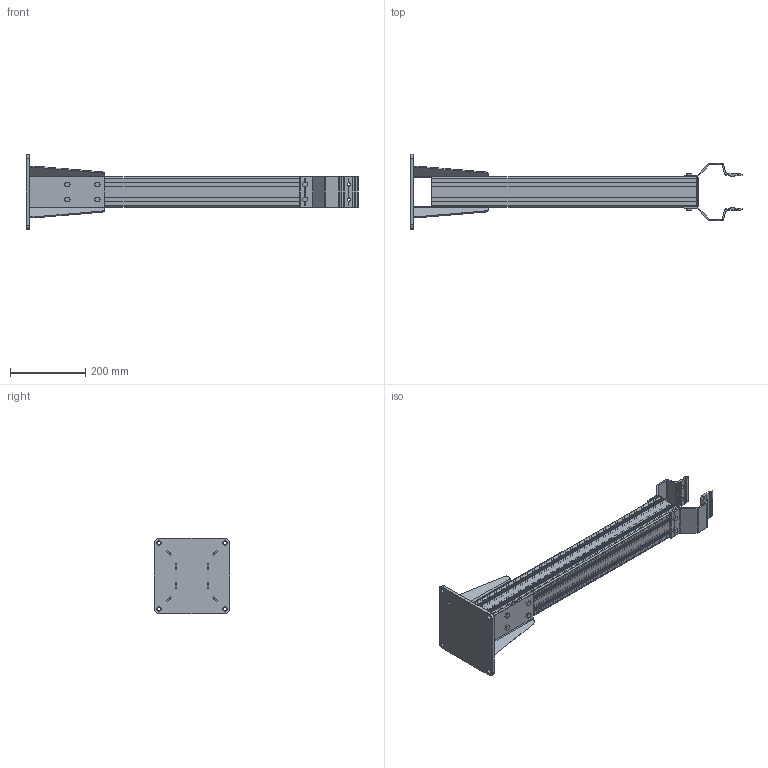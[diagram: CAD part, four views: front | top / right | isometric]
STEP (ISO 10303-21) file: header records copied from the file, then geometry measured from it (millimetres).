
FILE_DESCRIPTION(/* description */ (''),/* implementation_level */ '2;1');
FILE_NAME(/* name */ '\\carryline.intra\privat\users\mathias\Desktop\Tillfälliga filer\Assembly1.stp',/* time_stamp */ '2018-11-20T08:17:52+01:00',/* author */ ('Mathias'),/* organization */ (''),/* preprocessor_version */ 'ST-DEVELOPER v17',/* originating_system */ 'Autodesk Inventor 2018',/* authorisation */ '');
FILE_SCHEMA (('AUTOMOTIVE_DESIGN { 1 0 10303 214 3 1 1 }'));
Length unit declared in the file: millimetre
Products named in the file (9): Assembly1; 100-1340; 100-1230; 100-1030-01; 100-2030; 100-1131; 16683_2; 16683_1; ISO 4018 - M8 x 16
Assembly tree (21 placements, depth 4):
  Assembly1
    100-1340
      100-1230  x2
      100-1030-01
      100-2030
      100-1131
        16683_1  x2
        16683_2
    ISO 4018 - M8 x 16  x12
Bounding box: 885 x 200 x 200 mm (x, y, z)
Volume: 1485446.3 mm3; surface area: 1007820.7 mm2
Topology: 19 solids, 19 shells, 1015 faces, 2800 edges, 1844 vertices
Faces by surface type: plane 657, cylinder 212, cone 100, bspline 30, torus 16
Full cylindrical faces by diameter (mm): 8 x12, 8.5 x8, 9 x8, 11 x4
Entity records: 24038 total; most frequent: CARTESIAN_POINT 4725, ORIENTED_EDGE 4102, DIRECTION 3792, EDGE_CURVE 2051, LINE 1532, VECTOR 1532, VERTEX_POINT 1362, AXIS2_PLACEMENT_3D 1130
